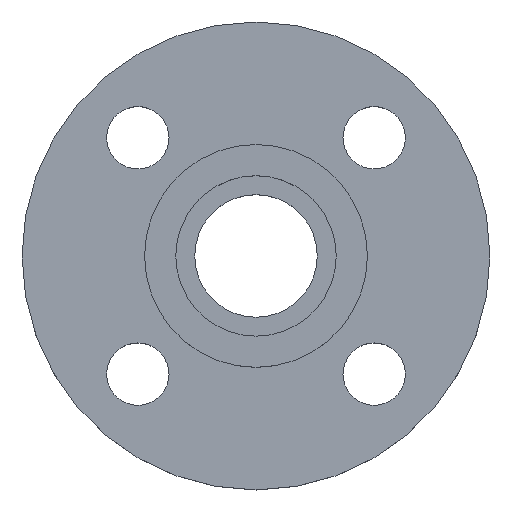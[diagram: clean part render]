
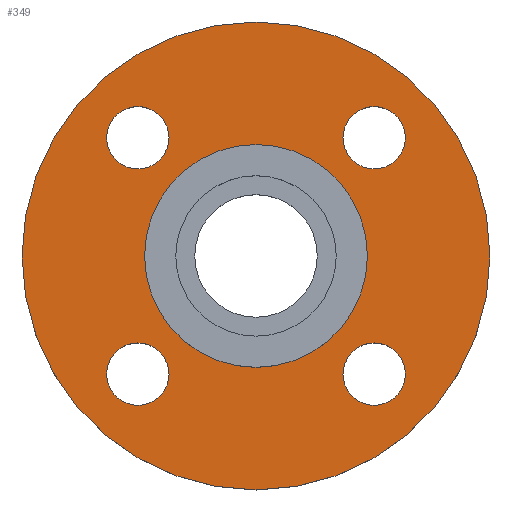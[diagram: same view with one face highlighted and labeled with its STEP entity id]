
A CAD part, top view. The second image highlights one B-rep face of the part: STEP entity #349.
In plain terms, the highlighted planar face has unit normal (0, 0, 1).
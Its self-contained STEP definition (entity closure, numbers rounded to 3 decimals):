
#2 = DIRECTION ( 'NONE',  ( 1., 0., 0. ) ) ;
#3 = DIRECTION ( 'NONE',  ( 0., 0., -1. ) ) ;
#6 = CARTESIAN_POINT ( 'NONE',  ( 26.517, -26.517, -4.5 ) ) ;
#41 = ORIENTED_EDGE ( 'NONE', *, *, #581, .T. ) ;
#43 = ORIENTED_EDGE ( 'NONE', *, *, #296, .T. ) ;
#45 = CARTESIAN_POINT ( 'NONE',  ( -19.517, 26.517, -4.5 ) ) ;
#47 = ORIENTED_EDGE ( 'NONE', *, *, #274, .T. ) ;
#49 = ORIENTED_EDGE ( 'NONE', *, *, #507, .T. ) ;
#50 = ORIENTED_EDGE ( 'NONE', *, *, #574, .T. ) ;
#51 = ORIENTED_EDGE ( 'NONE', *, *, #657, .T. ) ;
#52 = ORIENTED_EDGE ( 'NONE', *, *, #650, .T. ) ;
#56 = CARTESIAN_POINT ( 'NONE',  ( 33.517, 26.517, -4.5 ) ) ;
#58 = ORIENTED_EDGE ( 'NONE', *, *, #123, .T. ) ;
#60 = DIRECTION ( 'NONE',  ( 1., 0., 0. ) ) ;
#64 = ORIENTED_EDGE ( 'NONE', *, *, #158, .T. ) ;
#68 = ORIENTED_EDGE ( 'NONE', *, *, #172, .T. ) ;
#70 = ORIENTED_EDGE ( 'NONE', *, *, #496, .F. ) ;
#71 = ORIENTED_EDGE ( 'NONE', *, *, #243, .F. ) ;
#72 = DIRECTION ( 'NONE',  ( 0., 0., -1. ) ) ;
#75 = DIRECTION ( 'NONE',  ( -1., 0., 0. ) ) ;
#82 = CARTESIAN_POINT ( 'NONE',  ( -26.517, -26.517, -4.5 ) ) ;
#83 = DIRECTION ( 'NONE',  ( 0., 0., -1. ) ) ;
#90 = CARTESIAN_POINT ( 'NONE',  ( 0., 0., -4.5 ) ) ;
#105 = VERTEX_POINT ( 'NONE', #249 ) ;
#118 = VERTEX_POINT ( 'NONE', #236 ) ;
#119 = VERTEX_POINT ( 'NONE', #235 ) ;
#123 = EDGE_CURVE ( 'NONE', #647, #286, #316, .T. ) ;
#131 = EDGE_LOOP ( 'NONE', ( #47, #49 ) ) ;
#136 = CIRCLE ( 'NONE', #147, 7. ) ;
#141 = EDGE_LOOP ( 'NONE', ( #70, #71 ) ) ;
#147 = AXIS2_PLACEMENT_3D ( 'NONE', #345, #343, #342 ) ;
#153 = AXIS2_PLACEMENT_3D ( 'NONE', #6, #3, #2 ) ;
#158 = EDGE_CURVE ( 'NONE', #161, #612, #273, .T. ) ;
#161 = VERTEX_POINT ( 'NONE', #197 ) ;
#162 = CIRCLE ( 'NONE', #153, 7. ) ;
#168 = VERTEX_POINT ( 'NONE', #220 ) ;
#169 = CIRCLE ( 'NONE', #173, 7. ) ;
#172 = EDGE_CURVE ( 'NONE', #612, #161, #254, .T. ) ;
#173 = AXIS2_PLACEMENT_3D ( 'NONE', #334, #333, #332 ) ;
#174 = AXIS2_PLACEMENT_3D ( 'NONE', #90, #83, #75 ) ;
#176 = CIRCLE ( 'NONE', #174, 52.5 ) ;
#182 = CIRCLE ( 'NONE', #186, 7. ) ;
#186 = AXIS2_PLACEMENT_3D ( 'NONE', #82, #72, #60 ) ;
#192 = DIRECTION ( 'NONE',  ( -1., 0., 0. ) ) ;
#193 = AXIS2_PLACEMENT_3D ( 'NONE', #631, #630, #628 ) ;
#196 = DIRECTION ( 'NONE',  ( 0., 0., -1. ) ) ;
#197 = CARTESIAN_POINT ( 'NONE',  ( -25., 0., -4.5 ) ) ;
#204 = CARTESIAN_POINT ( 'NONE',  ( 26.517, 26.517, -4.5 ) ) ;
#210 = CARTESIAN_POINT ( 'NONE',  ( 0., 0., -4.5 ) ) ;
#214 = DIRECTION ( 'NONE',  ( 0., 0., -1. ) ) ;
#217 = DIRECTION ( 'NONE',  ( 0., 0., -1. ) ) ;
#220 = CARTESIAN_POINT ( 'NONE',  ( -33.517, 26.517, -4.5 ) ) ;
#223 = DIRECTION ( 'NONE',  ( -1., 0., 0. ) ) ;
#225 = CARTESIAN_POINT ( 'NONE',  ( 0., 0., -4.5 ) ) ;
#231 = DIRECTION ( 'NONE',  ( 1., 0., 0. ) ) ;
#235 = CARTESIAN_POINT ( 'NONE',  ( 33.517, -26.517, -4.5 ) ) ;
#236 = CARTESIAN_POINT ( 'NONE',  ( 19.517, -26.517, -4.5 ) ) ;
#243 = EDGE_CURVE ( 'NONE', #634, #613, #176, .T. ) ;
#249 = CARTESIAN_POINT ( 'NONE',  ( -19.517, -26.517, -4.5 ) ) ;
#252 = AXIS2_PLACEMENT_3D ( 'NONE', #210, #214, #192 ) ;
#254 = CIRCLE ( 'NONE', #252, 25. ) ;
#255 = AXIS2_PLACEMENT_3D ( 'NONE', #225, #196, #223 ) ;
#273 = CIRCLE ( 'NONE', #255, 25. ) ;
#274 = EDGE_CURVE ( 'NONE', #105, #407, #182, .T. ) ;
#281 = EDGE_LOOP ( 'NONE', ( #50, #51 ) ) ;
#285 = EDGE_LOOP ( 'NONE', ( #64, #68 ) ) ;
#286 = VERTEX_POINT ( 'NONE', #56 ) ;
#287 = AXIS2_PLACEMENT_3D ( 'NONE', #204, #217, #231 ) ;
#290 = VERTEX_POINT ( 'NONE', #45 ) ;
#296 = EDGE_CURVE ( 'NONE', #118, #119, #162, .T. ) ;
#316 = CIRCLE ( 'NONE', #287, 7. ) ;
#332 = DIRECTION ( 'NONE',  ( 1., 0., 0. ) ) ;
#333 = DIRECTION ( 'NONE',  ( 0., 0., -1. ) ) ;
#334 = CARTESIAN_POINT ( 'NONE',  ( -26.517, 26.517, -4.5 ) ) ;
#342 = DIRECTION ( 'NONE',  ( 1., 0., 0. ) ) ;
#343 = DIRECTION ( 'NONE',  ( 0., 0., -1. ) ) ;
#345 = CARTESIAN_POINT ( 'NONE',  ( 26.517, 26.517, -4.5 ) ) ;
#349 = ADVANCED_FACE ( 'NONE', ( #642, #641, #639, #638, #637, #633 ), #632, .T. ) ;
#351 = CARTESIAN_POINT ( 'NONE',  ( 19.517, 26.517, -4.5 ) ) ;
#353 = AXIS2_PLACEMENT_3D ( 'NONE', #557, #556, #555 ) ;
#354 = CIRCLE ( 'NONE', #353, 52.5 ) ;
#372 = AXIS2_PLACEMENT_3D ( 'NONE', #423, #422, #420 ) ;
#376 = AXIS2_PLACEMENT_3D ( 'NONE', #547, #546, #545 ) ;
#379 = CIRCLE ( 'NONE', #376, 7. ) ;
#384 = CIRCLE ( 'NONE', #421, 7. ) ;
#397 = CIRCLE ( 'NONE', #372, 7. ) ;
#401 = CARTESIAN_POINT ( 'NONE',  ( -52.5, 0., -4.5 ) ) ;
#406 = CARTESIAN_POINT ( 'NONE',  ( 52.5, 0., -4.5 ) ) ;
#407 = VERTEX_POINT ( 'NONE', #604 ) ;
#408 = CARTESIAN_POINT ( 'NONE',  ( 25., 0., -4.5 ) ) ;
#420 = DIRECTION ( 'NONE',  ( 1., 0., 0. ) ) ;
#421 = AXIS2_PLACEMENT_3D ( 'NONE', #443, #442, #441 ) ;
#422 = DIRECTION ( 'NONE',  ( 0., 0., -1. ) ) ;
#423 = CARTESIAN_POINT ( 'NONE',  ( 26.517, -26.517, -4.5 ) ) ;
#441 = DIRECTION ( 'NONE',  ( 1., 0., 0. ) ) ;
#442 = DIRECTION ( 'NONE',  ( 0., 0., -1. ) ) ;
#443 = CARTESIAN_POINT ( 'NONE',  ( -26.517, 26.517, -4.5 ) ) ;
#467 = EDGE_LOOP ( 'NONE', ( #52, #58 ) ) ;
#496 = EDGE_CURVE ( 'NONE', #613, #634, #354, .T. ) ;
#507 = EDGE_CURVE ( 'NONE', #407, #105, #379, .T. ) ;
#545 = DIRECTION ( 'NONE',  ( 1., 0., 0. ) ) ;
#546 = DIRECTION ( 'NONE',  ( 0., 0., -1. ) ) ;
#547 = CARTESIAN_POINT ( 'NONE',  ( -26.517, -26.517, -4.5 ) ) ;
#555 = DIRECTION ( 'NONE',  ( -1., 0., 0. ) ) ;
#556 = DIRECTION ( 'NONE',  ( 0., 0., -1. ) ) ;
#557 = CARTESIAN_POINT ( 'NONE',  ( 0., 0., -4.5 ) ) ;
#574 = EDGE_CURVE ( 'NONE', #290, #168, #384, .T. ) ;
#581 = EDGE_CURVE ( 'NONE', #119, #118, #397, .T. ) ;
#604 = CARTESIAN_POINT ( 'NONE',  ( -33.517, -26.517, -4.5 ) ) ;
#612 = VERTEX_POINT ( 'NONE', #408 ) ;
#613 = VERTEX_POINT ( 'NONE', #406 ) ;
#628 = DIRECTION ( 'NONE',  ( 1., 0., 0. ) ) ;
#630 = DIRECTION ( 'NONE',  ( 0., 0., 1. ) ) ;
#631 = CARTESIAN_POINT ( 'NONE',  ( 25., 0., -4.5 ) ) ;
#632 = PLANE ( 'NONE',  #193 ) ;
#633 = FACE_OUTER_BOUND ( 'NONE', #141, .T. ) ;
#634 = VERTEX_POINT ( 'NONE', #401 ) ;
#637 = FACE_BOUND ( 'NONE', #285, .T. ) ;
#638 = FACE_BOUND ( 'NONE', #467, .T. ) ;
#639 = FACE_BOUND ( 'NONE', #281, .T. ) ;
#641 = FACE_BOUND ( 'NONE', #131, .T. ) ;
#642 = FACE_BOUND ( 'NONE', #652, .T. ) ;
#647 = VERTEX_POINT ( 'NONE', #351 ) ;
#650 = EDGE_CURVE ( 'NONE', #286, #647, #136, .T. ) ;
#652 = EDGE_LOOP ( 'NONE', ( #41, #43 ) ) ;
#657 = EDGE_CURVE ( 'NONE', #168, #290, #169, .T. ) ;
